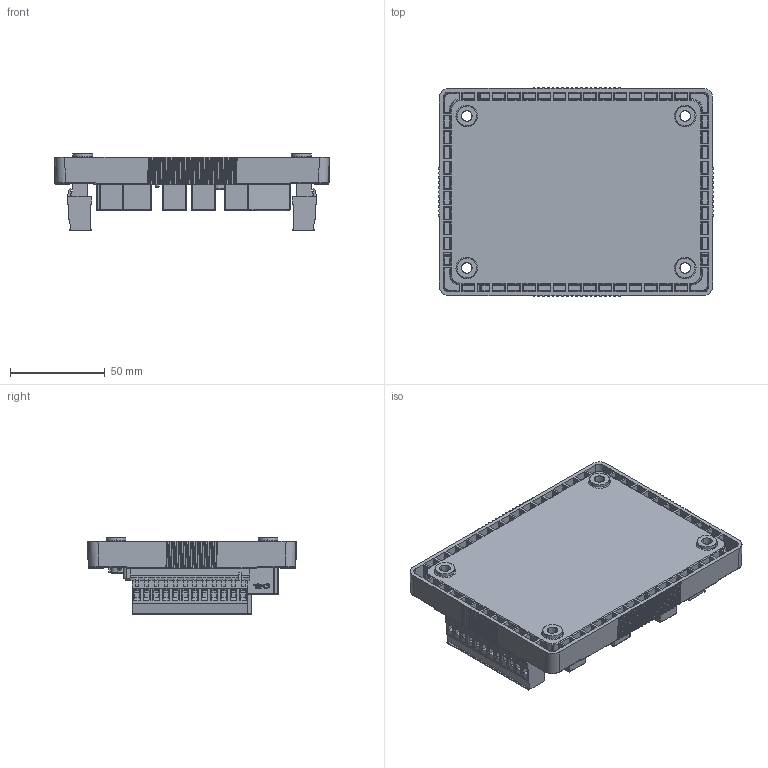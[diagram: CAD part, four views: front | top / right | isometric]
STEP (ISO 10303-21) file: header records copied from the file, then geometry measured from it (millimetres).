
FILE_DESCRIPTION (( 'STEP AP214' ), '1' );
FILE_NAME ('HTR6-20250829_1-厙桴蚚芞.STEP', '2025-09-28T01:56:58', ( '' ), ( '' ), 'SwSTEP 2.0', 'SolidWorks 2024', '' );
FILE_SCHEMA (( 'AUTOMOTIVE_DESIGN' ));
Length unit declared in the file: millimetre
Products named in the file (1): HTR6-20250829_1-网站用图
Bounding box: 144.95 x 110 x 40.35 mm (x, y, z)
Volume: 247084.3 mm3; surface area: 77126 mm2
Topology: 1 solids, 13 shells, 4036 faces, 10388 edges, 6648 vertices
Faces by surface type: plane 2246, bspline 904, cylinder 838, cone 48
Entity records: 188308 total; most frequent: CARTESIAN_POINT 55571, ORIENTED_EDGE 20716, DIRECTION 14422, EDGE_CURVE 10358, VERTEX_POINT 6648, VECTOR 6528, LINE 6528, EDGE_LOOP 4344
